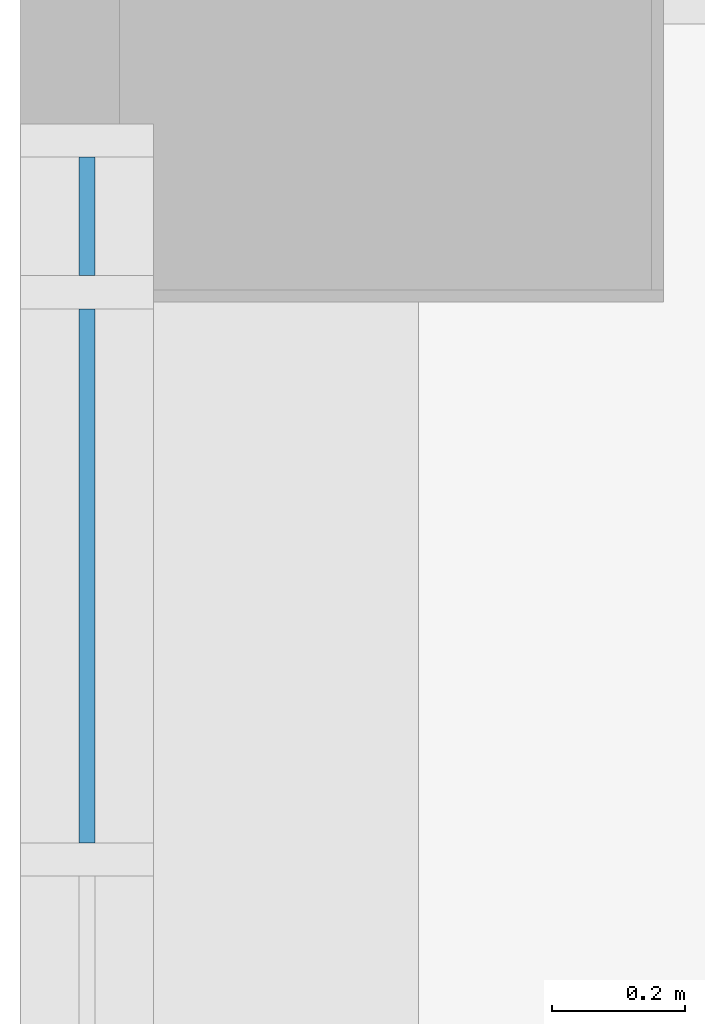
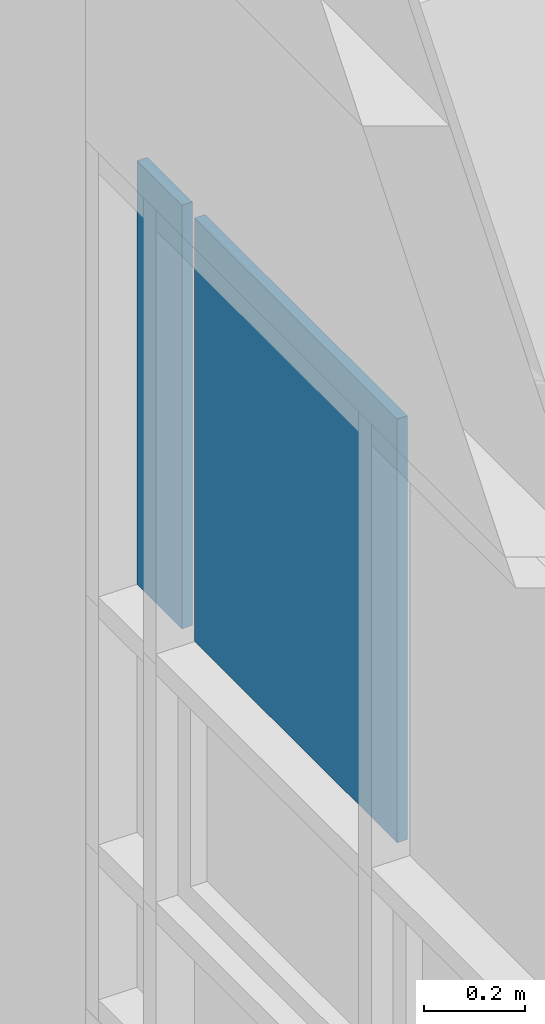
# One storey, part 34 of 81: 2 plates, 1 element without a shape of its own.
"""IFC2X3 building model written with IfcOpenShell, lengths in millimetres."""

import ifcopenshell
import ifcopenshell.guid

model = None  # the IFC model being written
_history = None  # IfcOwnerHistory: only IFC2X3 demands one
_inside = {}  # id of a spatial element -> (the spatial element, [elements in it])
_under = {}  # id of a project, library or spatial element -> (it, [spatial elements below it])
_declared = {}  # id of a project -> (the project, [libraries it declares])
_typed = {}  # id of a type object -> (the type object, [elements of that type])
_made_of = {}  # id of a material, layer set ... -> (it, [elements and type objects made of it])


def new_model(schema):
    """Start an empty IFC model of exactly this schema.

    Asked for "IFC4X3", IfcOpenShell would pick the latest addendum, in which some entities
    have other attributes; the version numbers below select the first issue.
    IFC2X3 requires an IfcOwnerHistory on every rooted entity: one is made here for all.
    """
    global model, _history
    if schema == "IFC4X3":
        model = ifcopenshell.file(schema_version=(4, 3, 0, 0))
    else:
        model = ifcopenshell.file(schema=schema)
    _inside.clear()
    _under.clear()
    _declared.clear()
    _typed.clear()
    _made_of.clear()
    _history = None
    if model.schema == "IFC2X3":
        org = make("IfcOrganization", Name="unknown")
        user = make(
            "IfcPersonAndOrganization",
            ThePerson=make("IfcPerson", FamilyName="unknown"),
            TheOrganization=org,
        )
        app = make(
            "IfcApplication",
            ApplicationDeveloper=org,
            Version="unknown",
            ApplicationFullName="unknown",
            ApplicationIdentifier="unknown",
        )
        _history = make(
            "IfcOwnerHistory",
            OwningUser=user,
            OwningApplication=app,
            ChangeAction="ADDED",
            CreationDate=0,
        )
    return model


def make(cls, **values):
    """One entity of the class cls with the attributes given. An attribute that is None is left unset."""
    return model.create_entity(
        cls, **{name: value for name, value in values.items() if value is not None}
    )


def entity(cls, *values):
    """Any entity or typed value of the class cls, its attributes in the order of the schema. None: left unset."""
    e = model.create_entity(cls)
    for i, value in enumerate(values):
        if value is not None:
            e[i] = value
    return e


def rooted(cls, **values):
    """An entity with a GlobalId (a new one), such as an element, a storey or a relation."""
    return make(cls, GlobalId=ifcopenshell.guid.new(), OwnerHistory=_history, **values)


def si_unit(unit_type, name, prefix=None):
    """IfcSIUnit, for example si_unit("LENGTHUNIT", "METRE", prefix="MILLI")."""
    return make("IfcSIUnit", UnitType=unit_type, Prefix=prefix, Name=name)


def converted_unit(unit_type, name, factor, base, dimensions=None, offset=None):
    """IfcConversionBasedUnit, such as the inch: factor (a typed value) times the base unit."""
    return make(
        "IfcConversionBasedUnit"
        if offset is None
        else "IfcConversionBasedUnitWithOffset",
        ConversionOffset=offset,
        Dimensions=None
        if dimensions is None
        else entity("IfcDimensionalExponents", *dimensions),
        UnitType=unit_type,
        Name=name,
        ConversionFactor=make(
            "IfcMeasureWithUnit", ValueComponent=factor, UnitComponent=base
        ),
    )


def derived_unit(unit_type, elements):
    """IfcDerivedUnit: a product of units, each with its exponent."""
    return make(
        "IfcDerivedUnit",
        Elements=[
            make("IfcDerivedUnitElement", Unit=unit, Exponent=power)
            for unit, power in elements
        ],
        UnitType=unit_type,
    )


def assignment(units):
    """IfcUnitAssignment: the units of a project."""
    return None if units is None else make("IfcUnitAssignment", Units=units)


def point(xyz):
    """IfcCartesianPoint."""
    return None if xyz is None else make("IfcCartesianPoint", Coordinates=xyz)


def direction(xyz):
    """IfcDirection."""
    return None if xyz is None else make("IfcDirection", DirectionRatios=xyz)


def frame(location, z_axis=None, x_axis=None):
    """IfcAxis2Placement3D, a coordinate frame: its origin and axes. An axis left out is left unset."""
    return make(
        "IfcAxis2Placement3D",
        Location=point(location),
        Axis=direction(z_axis),
        RefDirection=direction(x_axis),
    )


def frame_2d(location, x_axis=None):
    """IfcAxis2Placement2D, a coordinate frame in the plane: its origin and x axis."""
    return make(
        "IfcAxis2Placement2D", Location=point(location), RefDirection=direction(x_axis)
    )


def origin():
    """The frame at (0, 0, 0) with its axes left unset."""
    return frame((0.0, 0.0, 0.0))


def origin_2d_with_axis():
    """The frame at (0, 0) in the plane with the x axis (1, 0) written out."""
    return frame_2d((0.0, 0.0), x_axis=(1.0, 0.0))


def place(relative_to, where):
    """IfcLocalPlacement: puts the frame where relative to a parent placement (None: the world)."""
    return make(
        "IfcLocalPlacement", PlacementRelTo=relative_to, RelativePlacement=where
    )


def context(
    kind, dimensions, precision=None, world=None, true_north=None, identifier=None
):
    """IfcGeometricRepresentationContext, for example the 3D "Model" context."""
    return make(
        "IfcGeometricRepresentationContext",
        ContextIdentifier=identifier,
        ContextType=kind,
        CoordinateSpaceDimension=dimensions,
        Precision=precision,
        WorldCoordinateSystem=world,
        TrueNorth=true_north,
    )


def subcontext(parent, identifier, kind, view, scale=None):
    """IfcGeometricRepresentationSubContext, for example "Body" below "Model"."""
    return make(
        "IfcGeometricRepresentationSubContext",
        ContextIdentifier=identifier,
        ContextType=kind,
        ParentContext=parent,
        TargetScale=scale,
        TargetView=view,
    )


def project(units=None, contexts=None):
    """IfcProject with its units and contexts."""
    return rooted(
        "IfcProject",
        Name="project",
        RepresentationContexts=contexts,
        UnitsInContext=assignment(units),
    )


def spatial(cls, under=None, at=None, **own):
    """A site, building, storey or space (cls), placed at a placement, below another one or the project."""
    s = rooted(cls, ObjectPlacement=at, **own)
    if under is not None:
        _under.setdefault(under.id(), (under, []))[1].append(s)
    return s


def profile(cls, at=None, kind="AREA", **sizes):
    """A parametric profile (cls). Its sizes go by their IFC names, for example OverallWidth=200.0."""
    return make(cls, ProfileType=kind, Position=at, **sizes)


def rectangle(**sizes):
    """IfcRectangleProfileDef."""
    return profile("IfcRectangleProfileDef", **sizes)


def extrude(swept, where, along, depth):
    """IfcExtrudedAreaSolid: the profile swept, set in the frame where, extruded along a direction by depth."""
    return make(
        "IfcExtrudedAreaSolid",
        SweptArea=swept,
        Position=where,
        ExtrudedDirection=direction(along),
        Depth=depth,
    )


def shape(context_of_items, identifier, shape_type, items):
    """IfcShapeRepresentation: the items that make up one representation, for example the "Body"."""
    return make(
        "IfcShapeRepresentation",
        ContextOfItems=context_of_items,
        RepresentationIdentifier=identifier,
        RepresentationType=shape_type,
        Items=items,
    )


def source(mapping_origin, context_of_items, identifier, shape_type, items):
    """IfcRepresentationMap: a shape defined once, which mapped items show again and again."""
    return make(
        "IfcRepresentationMap",
        MappingOrigin=mapping_origin,
        MappedRepresentation=shape(context_of_items, identifier, shape_type, items),
    )


def transform(
    local_origin,
    x_axis=None,
    y_axis=None,
    z_axis=None,
    scale=None,
    scale2=None,
    scale3=None,
    uniform=True,
):
    """IfcCartesianTransformationOperator3D, or its non-uniform kind. x_axis, y_axis, z_axis: its Axis1, 2, 3."""
    if uniform:
        return make(
            "IfcCartesianTransformationOperator3D",
            Axis1=direction(x_axis),
            Axis2=direction(y_axis),
            LocalOrigin=point(local_origin),
            Scale=scale,
            Axis3=direction(z_axis),
        )
    return make(
        "IfcCartesianTransformationOperator3DnonUniform",
        Axis1=direction(x_axis),
        Axis2=direction(y_axis),
        LocalOrigin=point(local_origin),
        Scale=scale,
        Axis3=direction(z_axis),
        Scale2=scale2,
        Scale3=scale3,
    )


def mapped(mapping_source, mapping_target):
    """IfcMappedItem: shows the shape of a source again, moved by a transform."""
    return make(
        "IfcMappedItem", MappingSource=mapping_source, MappingTarget=mapping_target
    )


def material(Name=None, Category=None):
    """IfcMaterial."""
    return make("IfcMaterial", Name=Name, Category=Category)


def made_of(thing, what):
    """Note that an element or type object is made of a material, layer set ...; save() writes the relation."""
    if what is not None:
        _made_of.setdefault(what.id(), (what, []))[1].append(thing)
    return thing


def type_object(cls, material=None, **own):
    """A type object (cls), such as IfcWallType, which elements share."""
    return made_of(rooted(cls, **own), material)


def type_shapes(of_type, sources):
    """Give a type object the sources (RepresentationMaps) that its elements show as mapped items."""
    of_type.RepresentationMaps = sources


def element(
    cls,
    number,
    at=None,
    inside=None,
    cuts=None,
    type_object=None,
    material=None,
    context=None,
    identifier="Body",
    shape_type=None,
    held_by="IfcProductDefinitionShape",
    body=None,
    shapes=None,
    **own,
):
    """One element of the class cls, such as IfcWall. Its Tag is "e" and its number.

    at: its placement. inside: the storey or other place that contains it. cuts: it is an
    opening in that element (IfcRelVoidsElement). A single representation is given by context,
    identifier, shape_type and body (its items); several are given by shapes. held_by: the class
    of the entity that holds the representations. save() writes the other relations.
    """
    e = rooted(cls, Tag="e%d" % number, ObjectPlacement=at, **own)
    if body is not None:
        shapes = [shape(context, identifier, shape_type, body)]
    if shapes is not None:
        e.Representation = make(held_by, Representations=shapes)
    if inside is not None:
        _inside.setdefault(inside.id(), (inside, []))[1].append(e)
    if cuts is not None:
        rooted(
            "IfcRelVoidsElement", RelatingBuildingElement=cuts, RelatedOpeningElement=e
        )
    if type_object is not None:
        _typed.setdefault(type_object.id(), (type_object, []))[1].append(e)
    return made_of(e, material)


def aggregate(whole, parts):
    """IfcRelAggregates: a whole, such as a stair, and the parts it consists of."""
    return rooted("IfcRelAggregates", RelatingObject=whole, RelatedObjects=parts)


def save(model, path):
    """Write the relations noted so far, then the file.

    IfcRelAggregates (storeys below a building ...), IfcRelContainedInSpatialStructure (elements
    in a storey), IfcRelDefinesByType, IfcRelAssociatesMaterial and IfcRelDeclares: one each for
    every whole, place, type object, material and project.
    """
    for whole, parts in _under.values():
        aggregate(whole, parts)
    for where, things in _inside.values():
        rooted(
            "IfcRelContainedInSpatialStructure",
            RelatedElements=things,
            RelatingStructure=where,
        )
    for kind, things in _typed.values():
        rooted("IfcRelDefinesByType", RelatedObjects=things, RelatingType=kind)
    for what, things in _made_of.values():
        rooted("IfcRelAssociatesMaterial", RelatedObjects=things, RelatingMaterial=what)
    for by, libraries in _declared.values():
        rooted("IfcRelDeclares", RelatingContext=by, RelatedDefinitions=libraries)
    model.write(path)


model = new_model("IFC2X3")

# Units and contexts
model_context = context("Model", 3, precision=0.01, world=origin(), true_north=direction((6.123031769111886e-17, 1.0)))
body_context = subcontext(model_context, "Body", "Model", "MODEL_VIEW")
ifc_project = project(units=[si_unit("LENGTHUNIT", "METRE", prefix="MILLI"), si_unit("AREAUNIT", "SQUARE_METRE"), si_unit("VOLUMEUNIT", "CUBIC_METRE"), converted_unit("PLANEANGLEUNIT", "DEGREE", entity("IfcRatioMeasure", 0.017453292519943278), si_unit("PLANEANGLEUNIT", "RADIAN"), dimensions=[0, 0, 0, 0, 0, 0, 0]), si_unit("MASSUNIT", "GRAM", prefix="KILO"), derived_unit("MASSDENSITYUNIT", [(si_unit("MASSUNIT", "GRAM", prefix="KILO"), 1), (si_unit("LENGTHUNIT", "METRE"), -3)]), derived_unit("MOMENTOFINERTIAUNIT", [(si_unit("LENGTHUNIT", "METRE"), 4)]), si_unit("TIMEUNIT", "SECOND"), si_unit("FREQUENCYUNIT", "HERTZ"), si_unit("THERMODYNAMICTEMPERATUREUNIT", "DEGREE_CELSIUS"), derived_unit("THERMALTRANSMITTANCEUNIT", [(si_unit("MASSUNIT", "GRAM", prefix="KILO"), 1), (si_unit("THERMODYNAMICTEMPERATUREUNIT", "KELVIN"), -1), (si_unit("TIMEUNIT", "SECOND"), -3)]), derived_unit("VOLUMETRICFLOWRATEUNIT", [(si_unit("LENGTHUNIT", "METRE"), 3), (si_unit("TIMEUNIT", "SECOND"), -1)]), derived_unit("MASSFLOWRATEUNIT", [(si_unit("MASSUNIT", "GRAM", prefix="KILO"), 1), (si_unit("TIMEUNIT", "SECOND"), -1)]), derived_unit("ROTATIONALFREQUENCYUNIT", [(si_unit("TIMEUNIT", "SECOND"), -1)]), si_unit("ELECTRICCURRENTUNIT", "AMPERE"), si_unit("ELECTRICVOLTAGEUNIT", "VOLT"), si_unit("POWERUNIT", "WATT"), si_unit("FORCEUNIT", "NEWTON", prefix="KILO"), si_unit("ILLUMINANCEUNIT", "LUX"), si_unit("LUMINOUSFLUXUNIT", "LUMEN"), si_unit("LUMINOUSINTENSITYUNIT", "CANDELA"), derived_unit("USERDEFINED", [(si_unit("MASSUNIT", "GRAM", prefix="KILO"), -1), (si_unit("LENGTHUNIT", "METRE"), -2), (si_unit("TIMEUNIT", "SECOND"), 3), (si_unit("LUMINOUSFLUXUNIT", "LUMEN"), 1)]), derived_unit("SOUNDPOWERUNIT", [(si_unit("MASSUNIT", "GRAM", prefix="KILO"), 1), (si_unit("LENGTHUNIT", "METRE"), 2), (si_unit("TIMEUNIT", "SECOND"), -3)]), derived_unit("SOUNDPRESSUREUNIT", [(si_unit("MASSUNIT", "GRAM", prefix="KILO"), 1), (si_unit("LENGTHUNIT", "METRE"), -1), (si_unit("TIMEUNIT", "SECOND"), -2)]), derived_unit("LINEARVELOCITYUNIT", [(si_unit("LENGTHUNIT", "METRE"), 1), (si_unit("TIMEUNIT", "SECOND"), -1)]), si_unit("PRESSUREUNIT", "PASCAL"), derived_unit("USERDEFINED", [(si_unit("LENGTHUNIT", "METRE"), -2), (si_unit("MASSUNIT", "GRAM", prefix="KILO"), 1), (si_unit("TIMEUNIT", "SECOND"), -2)]), derived_unit("LINEARFORCEUNIT", [(si_unit("MASSUNIT", "GRAM", prefix="KILO"), 1), (si_unit("LENGTHUNIT", "METRE"), 1), (si_unit("TIMEUNIT", "SECOND"), -2), (si_unit("LENGTHUNIT", "METRE"), -1)]), derived_unit("PLANARFORCEUNIT", [(si_unit("MASSUNIT", "GRAM", prefix="KILO"), 1), (si_unit("LENGTHUNIT", "METRE"), 1), (si_unit("TIMEUNIT", "SECOND"), -2), (si_unit("LENGTHUNIT", "METRE"), -2)])], contexts=[model_context])

# Site, building, storey
site_placement = place(None, frame((-14167.972527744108, -657.2125860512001, 0.0)))
site = spatial("IfcSite", under=ifc_project, at=site_placement, Name="Default", CompositionType="ELEMENT")
building_placement = place(site_placement, origin())
building = spatial("IfcBuilding", under=site, at=building_placement, Name="Sample Building", CompositionType="ELEMENT")
storey_placement = place(building_placement, frame((0.0, 0.0, 13400.0)))
storey = spatial("IfcBuildingStorey", under=building, at=storey_placement, Name="지상 4층", CompositionType="ELEMENT", Elevation=13400.00000000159)

# Curtain wall, plates
curtain_wall_type = type_object("IfcCurtainWallType", Name="커튼월:CW112-스테인리스 스틸 커튼월", PredefinedType="NOTDEFINED")
curtain_wall_placement = place(storey_placement, frame((0.0, 0.0, -13400.0)))
curtain_wall = element("IfcCurtainWall", 1, at=curtain_wall_placement, inside=storey, type_object=curtain_wall_type, Name="커튼월:CW112-스테인리스 스틸 커튼월", ObjectType="커튼월:CW112-스테인리스 스틸 커튼월")
ifc_material = material(Name="KBIMS-로이유리(코팅)")
plate_type_1 = type_object("IfcPlateType", Name="CW300-THK24.Low-e coating glass:CW300-THK24.Low-e coating glass", PredefinedType="CURTAIN_PANEL", material=ifc_material)
shared_shape_1 = source(origin(), body_context, "Body", "SweptSolid", [
    extrude(rectangle(XDim=178.39458804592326, YDim=24.000000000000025, at=origin_2d_with_axis()), frame((0.0, 0.0, 0.0), z_axis=(0.0, 0.0, 1.0), x_axis=(-1.0, 0.0, 0.0)), (0.0, 0.0, 1.0), 1024.9999999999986),
])
type_shapes(plate_type_1, [shared_shape_1])
plate_1_placement = place(curtain_wall_placement, frame((14018.570555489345, 35068.01500111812, 15025.0), z_axis=(0.0, 0.0, 1.0), x_axis=(0.0, -1.0, 0.0)))
plate_1 = element("IfcPlate", 2, at=plate_1_placement, type_object=plate_type_1, material=ifc_material, Name="CW300-THK24.Low-e coating glass:CW300-THK24.Low-e coating glass", ObjectType="CW300-THK24.Low-e coating glass:CW300-THK24.Low-e coating glass", context=body_context, shape_type="MappedRepresentation", body=[
    mapped(shared_shape_1, transform((0.0, 0.0, 0.0), scale=1.0)),
])
plate_type_2 = type_object("IfcPlateType", Name="CW300-THK24.Low-e coating glass:CW300-THK24.Low-e coating glass", PredefinedType="CURTAIN_PANEL", material=ifc_material)
shared_shape_2 = source(origin(), body_context, "Body", "SweptSolid", [
    extrude(rectangle(XDim=803.5000000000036, YDim=24.000000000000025, at=origin_2d_with_axis()), frame((0.0, 0.0, 0.0), z_axis=(0.0, 0.0, 1.0), x_axis=(-1.0, 0.0, 0.0)), (0.0, 0.0, 1.0), 1024.9999999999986),
])
type_shapes(plate_type_2, [shared_shape_2])
plate_2_placement = place(curtain_wall_placement, frame((14018.570555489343, 34527.06770709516, 15025.0), z_axis=(0.0, 0.0, 1.0), x_axis=(0.0, -1.0, 0.0)))
plate_2 = element("IfcPlate", 3, at=plate_2_placement, type_object=plate_type_2, material=ifc_material, Name="CW300-THK24.Low-e coating glass:CW300-THK24.Low-e coating glass", ObjectType="CW300-THK24.Low-e coating glass:CW300-THK24.Low-e coating glass", context=body_context, shape_type="MappedRepresentation", body=[
    mapped(shared_shape_2, transform((0.0, 0.0, 0.0), scale=1.0)),
])
aggregate(curtain_wall, [plate_1, plate_2])

save(model, "model.ifc")
